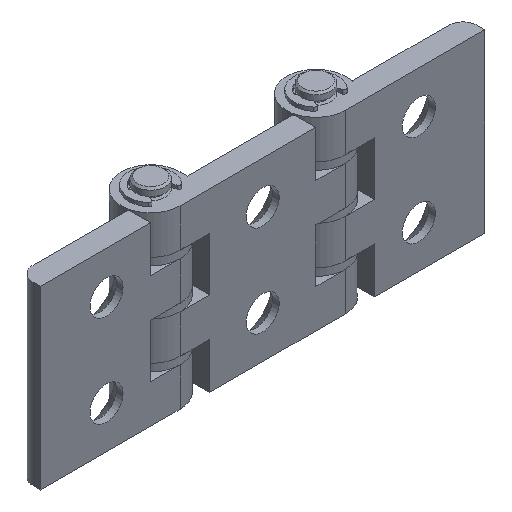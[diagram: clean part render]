
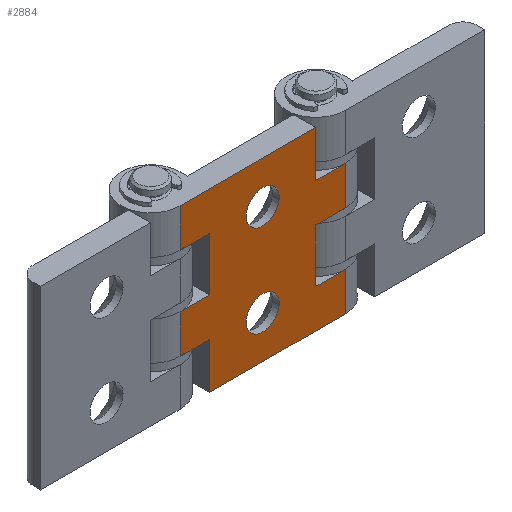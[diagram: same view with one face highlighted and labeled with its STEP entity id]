
A CAD part, isometric view. The second image highlights one B-rep face of the part: STEP entity #2884.
In plain terms, the highlighted planar face has unit normal (0, -1, 0).
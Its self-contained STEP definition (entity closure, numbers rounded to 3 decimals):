
#50=FACE_BOUND('',#463,.T.);
#51=FACE_BOUND('',#464,.T.);
#104=PLANE('',#3147);
#276=FACE_OUTER_BOUND('',#462,.T.);
#462=EDGE_LOOP('',(#2278,#2279,#2280,#2281,#2282,#2283,#2284,#2285,#2286,
#2287,#2288,#2289,#2290,#2291,#2292,#2293));
#463=EDGE_LOOP('',(#2294));
#464=EDGE_LOOP('',(#2295));
#653=LINE('',#4526,#911);
#655=LINE('',#4535,#913);
#656=LINE('',#4539,#914);
#659=LINE('',#4549,#917);
#662=LINE('',#4558,#920);
#664=LINE('',#4563,#922);
#668=LINE('',#4574,#926);
#673=LINE('',#4587,#931);
#674=LINE('',#4589,#932);
#679=LINE('',#4601,#937);
#682=LINE('',#4609,#940);
#684=LINE('',#4612,#942);
#688=LINE('',#4622,#946);
#691=LINE('',#4630,#949);
#693=LINE('',#4633,#951);
#696=LINE('',#4640,#954);
#911=VECTOR('',#3560,1000.);
#913=VECTOR('',#3568,1000.);
#914=VECTOR('',#3571,1000.);
#917=VECTOR('',#3580,1000.);
#920=VECTOR('',#3587,1000.);
#922=VECTOR('',#3593,1000.);
#926=VECTOR('',#3603,1000.);
#931=VECTOR('',#3614,1000.);
#932=VECTOR('',#3617,1000.);
#937=VECTOR('',#3628,1000.);
#940=VECTOR('',#3635,1000.);
#942=VECTOR('',#3639,1000.);
#946=VECTOR('',#3649,1000.);
#949=VECTOR('',#3656,1000.);
#951=VECTOR('',#3660,1000.);
#954=VECTOR('',#3669,1000.);
#1146=CIRCLE('',#3103,4.5);
#1151=CIRCLE('',#3111,4.5);
#1351=VERTEX_POINT('',#4499);
#1356=VERTEX_POINT('',#4515);
#1358=VERTEX_POINT('',#4520);
#1360=VERTEX_POINT('',#4524);
#1362=VERTEX_POINT('',#4529);
#1364=VERTEX_POINT('',#4533);
#1365=VERTEX_POINT('',#4537);
#1366=VERTEX_POINT('',#4538);
#1370=VERTEX_POINT('',#4548);
#1372=VERTEX_POINT('',#4554);
#1374=VERTEX_POINT('',#4557);
#1378=VERTEX_POINT('',#4572);
#1379=VERTEX_POINT('',#4573);
#1384=VERTEX_POINT('',#4585);
#1388=VERTEX_POINT('',#4600);
#1390=VERTEX_POINT('',#4606);
#1394=VERTEX_POINT('',#4621);
#1396=VERTEX_POINT('',#4627);
#1676=EDGE_CURVE('',#1351,#1351,#1146,.T.);
#1684=EDGE_CURVE('',#1356,#1356,#1151,.T.);
#1689=EDGE_CURVE('',#1358,#1360,#653,.T.);
#1693=EDGE_CURVE('',#1362,#1364,#655,.T.);
#1694=EDGE_CURVE('',#1365,#1366,#656,.T.);
#1699=EDGE_CURVE('',#1370,#1365,#659,.T.);
#1703=EDGE_CURVE('',#1372,#1374,#662,.T.);
#1706=EDGE_CURVE('',#1370,#1372,#664,.T.);
#1711=EDGE_CURVE('',#1378,#1379,#668,.T.);
#1718=EDGE_CURVE('',#1384,#1378,#673,.T.);
#1719=EDGE_CURVE('',#1362,#1384,#674,.T.);
#1725=EDGE_CURVE('',#1364,#1388,#679,.T.);
#1729=EDGE_CURVE('',#1390,#1388,#682,.T.);
#1731=EDGE_CURVE('',#1358,#1390,#684,.T.);
#1736=EDGE_CURVE('',#1360,#1394,#688,.T.);
#1740=EDGE_CURVE('',#1396,#1394,#691,.T.);
#1742=EDGE_CURVE('',#1396,#1374,#693,.T.);
#1746=EDGE_CURVE('',#1379,#1366,#696,.T.);
#2278=ORIENTED_EDGE('',*,*,#1706,.F.);
#2279=ORIENTED_EDGE('',*,*,#1699,.T.);
#2280=ORIENTED_EDGE('',*,*,#1694,.T.);
#2281=ORIENTED_EDGE('',*,*,#1746,.F.);
#2282=ORIENTED_EDGE('',*,*,#1711,.F.);
#2283=ORIENTED_EDGE('',*,*,#1718,.F.);
#2284=ORIENTED_EDGE('',*,*,#1719,.F.);
#2285=ORIENTED_EDGE('',*,*,#1693,.T.);
#2286=ORIENTED_EDGE('',*,*,#1725,.T.);
#2287=ORIENTED_EDGE('',*,*,#1729,.F.);
#2288=ORIENTED_EDGE('',*,*,#1731,.F.);
#2289=ORIENTED_EDGE('',*,*,#1689,.T.);
#2290=ORIENTED_EDGE('',*,*,#1736,.T.);
#2291=ORIENTED_EDGE('',*,*,#1740,.F.);
#2292=ORIENTED_EDGE('',*,*,#1742,.T.);
#2293=ORIENTED_EDGE('',*,*,#1703,.F.);
#2294=ORIENTED_EDGE('',*,*,#1676,.T.);
#2295=ORIENTED_EDGE('',*,*,#1684,.T.);
#2884=ADVANCED_FACE('',(#276,#50,#51),#104,.F.);
#3103=AXIS2_PLACEMENT_3D('',#4500,#3531,#3532);
#3111=AXIS2_PLACEMENT_3D('',#4516,#3550,#3551);
#3147=AXIS2_PLACEMENT_3D('',#4639,#3667,#3668);
#3531=DIRECTION('center_axis',(0.,1.,0.));
#3532=DIRECTION('ref_axis',(0.,0.,1.));
#3550=DIRECTION('center_axis',(0.,1.,0.));
#3551=DIRECTION('ref_axis',(0.,0.,1.));
#3560=DIRECTION('',(0.,0.,-1.));
#3568=DIRECTION('',(0.,0.,-1.));
#3571=DIRECTION('',(1.,0.,0.));
#3580=DIRECTION('',(0.,0.,1.));
#3587=DIRECTION('',(0.,0.,-1.));
#3593=DIRECTION('',(1.,0.,0.));
#3603=DIRECTION('',(1.,0.,0.));
#3614=DIRECTION('',(0.,0.,-1.));
#3617=DIRECTION('',(1.,0.,0.));
#3628=DIRECTION('',(1.,0.,0.));
#3635=DIRECTION('',(0.,0.,1.));
#3639=DIRECTION('',(1.,0.,0.));
#3649=DIRECTION('',(1.,0.,0.));
#3656=DIRECTION('',(0.,0.,1.));
#3660=DIRECTION('',(1.,0.,0.));
#3667=DIRECTION('center_axis',(0.,1.,0.));
#3668=DIRECTION('ref_axis',(0.,0.,1.));
#3669=DIRECTION('',(0.,0.,-1.));
#4499=CARTESIAN_POINT('',(-25.056,-8.677,-20.468));
#4500=CARTESIAN_POINT('Origin',(-25.056,-8.677,-15.968));
#4515=CARTESIAN_POINT('',(-25.056,-8.677,4.532));
#4516=CARTESIAN_POINT('Origin',(-25.056,-8.677,9.032));
#4520=CARTESIAN_POINT('',(-47.556,-8.677,-4.468));
#4524=CARTESIAN_POINT('',(-47.556,-8.677,-14.968));
#4526=CARTESIAN_POINT('',(-47.556,-8.677,20.532));
#4529=CARTESIAN_POINT('',(-47.556,-8.677,20.532));
#4533=CARTESIAN_POINT('',(-47.556,-8.677,10.032));
#4535=CARTESIAN_POINT('',(-47.556,-8.677,20.532));
#4537=CARTESIAN_POINT('',(-10.556,-8.677,-2.468));
#4538=CARTESIAN_POINT('',(-2.556,-8.677,-2.468));
#4539=CARTESIAN_POINT('',(-2.556,-8.677,-2.468));
#4548=CARTESIAN_POINT('',(-10.556,-8.677,-16.968));
#4549=CARTESIAN_POINT('',(-10.556,-8.677,-16.968));
#4554=CARTESIAN_POINT('',(-2.556,-8.677,-16.968));
#4557=CARTESIAN_POINT('',(-2.556,-8.677,-27.468));
#4558=CARTESIAN_POINT('',(-2.556,-8.677,20.532));
#4563=CARTESIAN_POINT('',(-2.556,-8.677,-16.968));
#4572=CARTESIAN_POINT('',(-10.556,-8.677,8.032));
#4573=CARTESIAN_POINT('',(-2.556,-8.677,8.032));
#4574=CARTESIAN_POINT('',(-2.556,-8.677,8.032));
#4585=CARTESIAN_POINT('',(-10.556,-8.677,20.532));
#4587=CARTESIAN_POINT('',(-10.556,-8.677,20.532));
#4589=CARTESIAN_POINT('',(-47.556,-8.677,20.532));
#4600=CARTESIAN_POINT('',(-39.556,-8.677,10.032));
#4601=CARTESIAN_POINT('',(-47.556,-8.677,10.032));
#4606=CARTESIAN_POINT('',(-39.556,-8.677,-4.468));
#4609=CARTESIAN_POINT('',(-39.556,-8.677,-4.468));
#4612=CARTESIAN_POINT('',(-47.556,-8.677,-4.468));
#4621=CARTESIAN_POINT('',(-39.556,-8.677,-14.968));
#4622=CARTESIAN_POINT('',(-47.556,-8.677,-14.968));
#4627=CARTESIAN_POINT('',(-39.556,-8.677,-27.468));
#4630=CARTESIAN_POINT('',(-39.556,-8.677,-27.468));
#4633=CARTESIAN_POINT('',(-47.556,-8.677,-27.468));
#4639=CARTESIAN_POINT('Origin',(-47.556,-8.677,20.532));
#4640=CARTESIAN_POINT('',(-2.556,-8.677,20.532));
